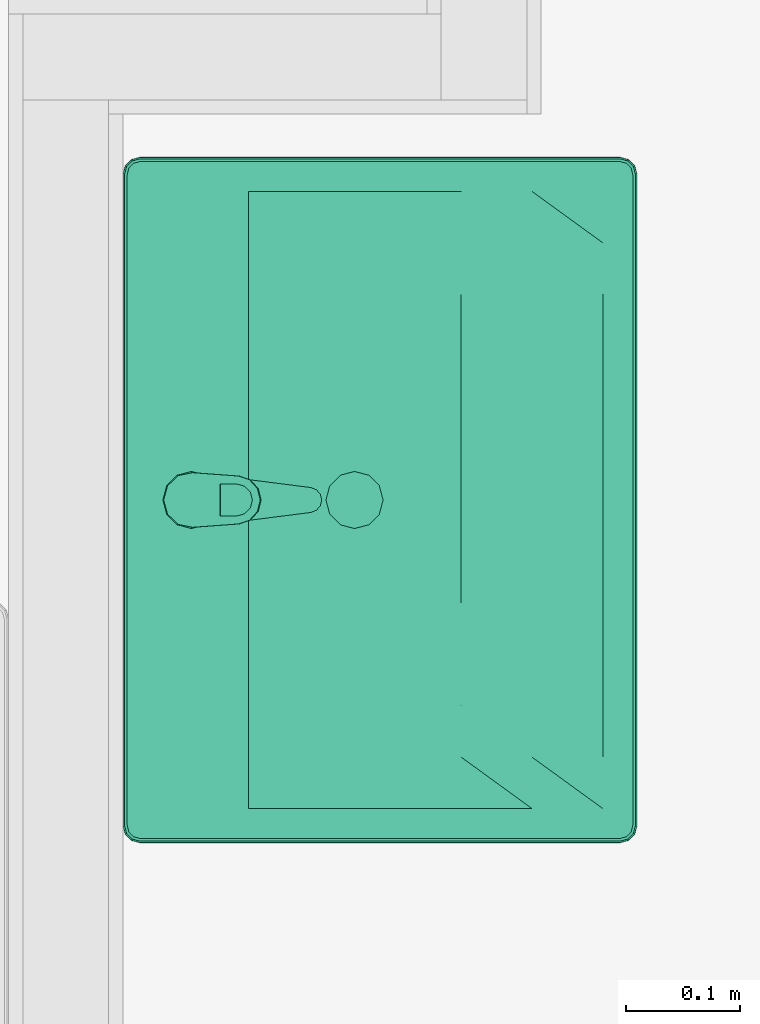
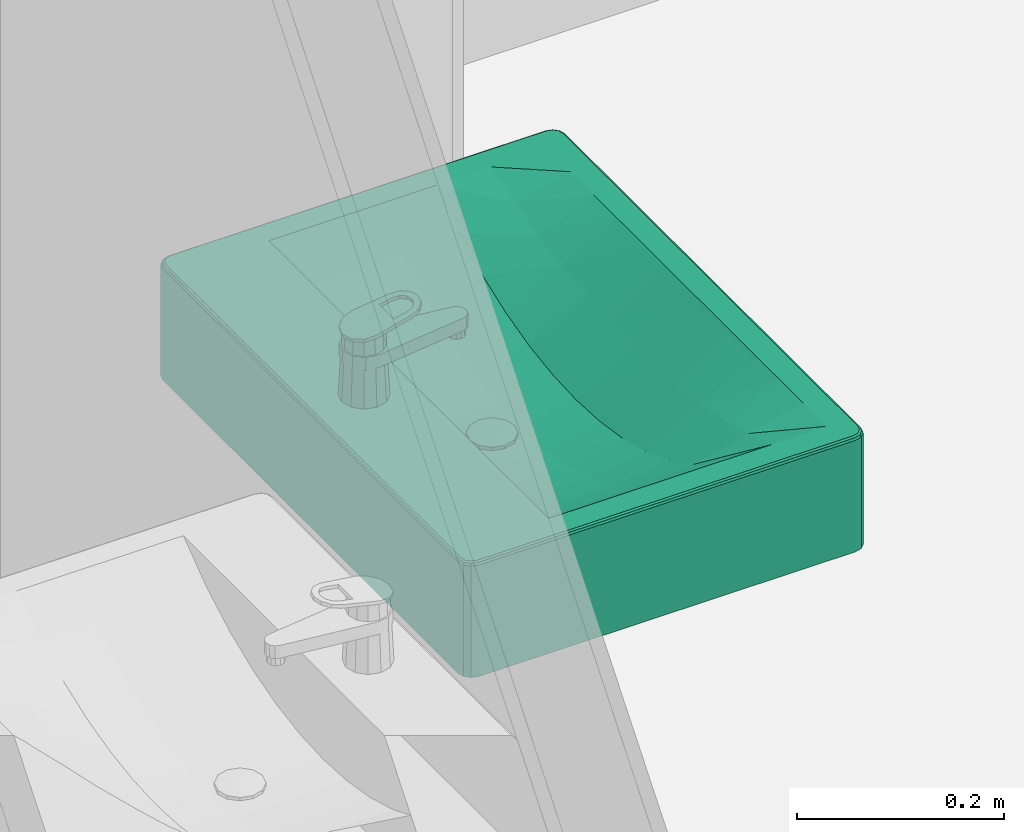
# One storey, part 98 of 117: 1 flow controller.
"""IFC2X3 building model written with IfcOpenShell, lengths in millimetres."""

from ifc_helpers import new_model, entity, si_unit, converted_unit, derived_unit, money_unit, direction, frame, origin_with_axes, place, context, subcontext, project, spatial, open_shell, faceted_brep, surface_model, source, transform, mapped, type_object, type_shapes, element, save


model = new_model("IFC2X3")

# Units and contexts
model_context = context("Model", 3, precision=0.01, world=origin_with_axes(), true_north=direction((0.0, 1.0)))
body_context = subcontext(model_context, "Body", "Model", "MODEL_VIEW")
ifc_project = project(units=[si_unit("LENGTHUNIT", "METRE", prefix="MILLI"), si_unit("AREAUNIT", "SQUARE_METRE"), si_unit("VOLUMEUNIT", "CUBIC_METRE"), converted_unit("PLANEANGLEUNIT", "DEGREE", entity("IfcPlaneAngleMeasure", 0.0174532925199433), si_unit("PLANEANGLEUNIT", "RADIAN"), dimensions=[0, 0, 0, 0, 0, 0, 0]), money_unit("EUR"), converted_unit("TIMEUNIT", "Year", entity("IfcTimeMeasure", 31557600.0), si_unit("TIMEUNIT", "SECOND"), dimensions=[0, 0, 1, 0, 0, 0, 0]), si_unit("MASSUNIT", "GRAM", prefix="KILO"), si_unit("THERMODYNAMICTEMPERATUREUNIT", "DEGREE_CELSIUS"), si_unit("LUMINOUSINTENSITYUNIT", "LUMEN"), si_unit("ENERGYUNIT", "JOULE", prefix="MEGA"), derived_unit("THERMALCONDUCTANCEUNIT", [(si_unit("POWERUNIT", "WATT"), 1), (si_unit("LENGTHUNIT", "METRE"), -1), (si_unit("THERMODYNAMICTEMPERATUREUNIT", "KELVIN"), -1)]), derived_unit("SPECIFICHEATCAPACITYUNIT", [(si_unit("ENERGYUNIT", "JOULE"), 1), (si_unit("MASSUNIT", "GRAM", prefix="KILO"), -1), (si_unit("THERMODYNAMICTEMPERATUREUNIT", "KELVIN"), -1)]), derived_unit("MASSDENSITYUNIT", [(si_unit("MASSUNIT", "GRAM", prefix="KILO"), 1), (si_unit("VOLUMEUNIT", "CUBIC_METRE"), -1)])], contexts=[model_context])

# Site, building, storey
site_placement = place(None, origin_with_axes())
site = spatial("IfcSite", under=ifc_project, at=site_placement, Name="Site", CompositionType="ELEMENT")
building_placement = place(site_placement, origin_with_axes())
building = spatial("IfcBuilding", under=site, at=building_placement, Name="Naam gebouw", CompositionType="ELEMENT")
storey_placement = place(building_placement, frame((0.0, 0.0, 4150.0), z_axis=(0.0, 0.0, 1.0), x_axis=(1.0, 0.0, 0.0)))
storey = spatial("IfcBuildingStorey", under=building, at=storey_placement, Name="1e verdieping N", CompositionType="ELEMENT", Elevation=4150.0)

# Flow controller
valve_type = type_object("IfcValveType", Name="Wasbak 27", PredefinedType="NOTDEFINED")
shared_shape = source(origin_with_axes(), body_context, "Body", "SurfaceModel", [
    faceted_brep([(285.0, -450.0, 865.0), (-285.0, -450.0, 865.0), (-292.5, -447.9903810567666, 865.0), (-297.9903810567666, -442.5, 865.0), (-300.0, -435.0, 865.0), (-300.0, -15.00000000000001, 865.0), (-297.9903810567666, -7.500000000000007, 865.0), (-292.5, -2.009618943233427, 865.0), (-285.0, 0.0, 865.0), (285.0, 0.0, 865.0), (292.5, -2.009618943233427, 865.0), (297.9903810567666, -7.500000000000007, 865.0), (300.0, -15.00000000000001, 865.0), (300.0, -435.0, 865.0), (297.9903810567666, -442.5, 865.0), (292.5, -447.9903810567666, 865.0), (-270.0, -420.0000000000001, 865.0), (270.0, -420.0000000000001, 865.0), (270.0, -110.0, 865.0), (-270.0, -110.0, 865.0), (284.9999995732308, -450.0000003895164, 995.0), (-284.9999997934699, -450.0000003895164, 995.0), (-292.5000000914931, -447.9903813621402, 995.0), (-297.9903813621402, -442.5000000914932, 995.0), (-300.0000003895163, -434.99999979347, 995.0), (-300.0000003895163, -14.99999986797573, 995.0), (-297.9903813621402, -7.499999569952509, 995.0), (-292.5000000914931, -2.009619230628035, 995.0), (-284.9999997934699, -2.032518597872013e-07, 995.0), (284.9999995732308, -2.032518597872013e-07, 995.0), (292.499999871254, -2.009619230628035, 995.0), (297.990381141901, -7.499999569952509, 995.0), (300.0000001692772, -14.99999986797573, 995.0), (300.0000001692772, -434.99999979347, 995.0), (297.990381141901, -442.5000000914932, 995.0), (292.499999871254, -447.9903813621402, 995.0), (-270.0, -420.0000000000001, 999.9999996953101), (270.0, -420.0000000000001, 999.9999996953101), (270.0, -110.0, 999.9999996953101), (-270.0, -110.0, 999.9999996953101), (284.9775698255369, -449.8296295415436, 996.2940952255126), (-284.9775700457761, -449.8296295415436, 996.2940952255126), (-292.4118096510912, -447.8376310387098, 996.2940952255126), (-297.8376310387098, -442.4118096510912, 996.2940952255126), (-299.8296295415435, -434.9775700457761, 996.2940952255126), (-299.8296295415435, -15.02242961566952, 996.2940952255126), (-297.8376310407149, -7.588190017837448, 996.2940952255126), (-292.4118096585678, -2.16236955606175, 996.2940952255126), (-284.9775700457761, -0.1703710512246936, 996.2940952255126), (284.9775698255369, -0.1703710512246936, 996.2940952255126), (292.4118094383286, -2.16236955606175, 996.2940952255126), (297.8376308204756, -7.588190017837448, 996.2940952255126), (299.8296293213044, -15.02242961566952, 996.2940952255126), (299.8296293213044, -434.9775700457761, 996.2940952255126), (297.8376308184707, -442.4118096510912, 996.2940952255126), (292.411809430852, -447.8376310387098, 996.2940952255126), (-284.3417376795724, -4.999997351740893, 999.9999996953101), (-289.911811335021, -6.492494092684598, 999.9999996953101), (-293.5075066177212, -10.08818876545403, 999.9999996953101), (-295.0000032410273, -15.6582619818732, 999.9999996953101), (-295.0000032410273, -434.3417376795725, 999.9999996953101), (-293.5075065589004, -439.9118111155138, 999.9999996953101), (-289.9118111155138, -443.5075065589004, 999.9999996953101), (-284.3417376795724, -445.0000032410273, 999.9999996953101), (284.3417374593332, -445.0000032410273, 999.9999996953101), (289.9118108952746, -443.5075065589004, 999.9999996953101), (293.5075063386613, -439.9118111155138, 999.9999996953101), (295.0000030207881, -434.3417376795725, 999.9999996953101), (295.0000030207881, -15.6582619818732, 999.9999996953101), (293.507506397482, -10.08818876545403, 999.9999996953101), (289.9118111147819, -6.492494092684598, 999.9999996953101), (284.3417374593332, -4.999997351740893, 999.9999996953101), (284.8071989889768, -448.5355345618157, 998.5355339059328), (-284.8071992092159, -448.5355345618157, 998.5355339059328), (-291.7419367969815, -446.6773772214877, 998.5355339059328), (-296.6773772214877, -441.7419367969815, 998.5355339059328), (-298.5355345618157, -434.807199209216, 998.5355339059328), (-298.5355345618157, -15.1928004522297, 998.5355339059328), (-296.6773772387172, -8.258062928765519, 998.5355339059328), (-291.7419368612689, -3.322623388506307, 998.5355339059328), (-284.8071992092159, -1.464466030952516, 998.5355339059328), (284.8071989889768, -1.464466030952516, 998.5355339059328), (291.7419366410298, -3.322623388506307, 998.5355339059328), (296.677377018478, -8.258062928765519, 998.5355339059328), (298.5355343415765, -15.1928004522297, 998.5355339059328), (298.5355343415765, -434.807199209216, 998.5355339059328), (296.6773770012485, -441.7419367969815, 998.5355339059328), (291.7419365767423, -446.6773772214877, 998.5355339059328), (-290.5816830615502, -5.332242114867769, 999.8296291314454), (-284.5121082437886, -3.705904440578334, 999.8296291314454), (-294.6677585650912, -9.418316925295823, 999.8296291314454), (-296.2940961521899, -15.487891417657, 999.8296291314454), (-296.2940961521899, -434.5121082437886, 999.8296291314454), (-294.6677585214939, -440.5816828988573, 999.8296291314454), (-290.5816828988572, -444.6677585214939, 999.8296291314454), (-284.5121082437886, -446.2940961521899, 999.8296291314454), (284.5121080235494, -446.2940961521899, 999.8296291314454), (290.5816826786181, -444.6677585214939, 999.8296291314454), (294.6677583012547, -440.5816828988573, 999.8296291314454), (296.2940959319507, -434.5121082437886, 999.8296291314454), (296.2940959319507, -15.487891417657, 999.8296291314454), (294.667758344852, -9.418316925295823, 999.8296291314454), (290.581682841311, -5.332242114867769, 999.8296291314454), (284.5121080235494, -3.705904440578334, 999.8296291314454)], [[[0, 1, 2, 3, 4, 5, 6, 7, 8, 9, 10, 11, 12, 13, 14, 15], [16, 17, 18, 19]], [[0, 20, 21, 1]], [[1, 21, 22, 2]], [[2, 22, 23, 3]], [[3, 23, 24, 4]], [[4, 24, 25, 5]], [[5, 25, 26, 6]], [[6, 26, 27, 7]], [[7, 27, 28, 8]], [[8, 28, 29, 9]], [[9, 29, 30, 10]], [[10, 30, 31, 11]], [[11, 31, 32, 12]], [[12, 32, 33, 13]], [[13, 33, 34, 14]], [[14, 34, 35, 15]], [[15, 35, 20, 0]], [[36, 37, 17, 16]], [[37, 38, 18, 17]], [[38, 39, 19, 18]], [[39, 36, 16, 19]], [[20, 40, 41, 21]], [[21, 41, 42, 22]], [[22, 42, 43, 23]], [[23, 43, 44, 24]], [[24, 44, 45, 25]], [[25, 45, 46, 26]], [[26, 46, 47, 27]], [[27, 47, 48, 28]], [[28, 48, 49, 29]], [[29, 49, 50, 30]], [[30, 50, 51, 31]], [[31, 51, 52, 32]], [[32, 52, 53, 33]], [[33, 53, 54, 34]], [[34, 54, 55, 35]], [[35, 55, 40, 20]], [[56, 57, 58, 59, 60, 61, 62, 63, 64, 65, 66, 67, 68, 69, 70, 71], [36, 39, 38, 37]], [[40, 72, 73, 41]], [[41, 73, 74, 42]], [[42, 74, 75, 43]], [[43, 75, 76, 44]], [[44, 76, 77, 45]], [[45, 77, 78, 46]], [[46, 78, 79, 47]], [[47, 79, 80, 48]], [[48, 80, 81, 49]], [[49, 81, 82, 50]], [[50, 82, 83, 51]], [[51, 83, 84, 52]], [[52, 84, 85, 53]], [[53, 85, 86, 54]], [[54, 86, 87, 55]], [[55, 87, 72, 40]], [[88, 57, 56, 89]], [[90, 58, 57, 88]], [[91, 59, 58, 90]], [[92, 60, 59, 91]], [[93, 61, 60, 92]], [[94, 62, 61, 93]], [[95, 63, 62, 94]], [[96, 64, 63, 95]], [[97, 65, 64, 96]], [[98, 66, 65, 97]], [[99, 67, 66, 98]], [[100, 68, 67, 99]], [[101, 69, 68, 100]], [[102, 70, 69, 101]], [[103, 71, 70, 102]], [[89, 56, 71, 103]], [[72, 96, 95, 73]], [[73, 95, 94, 74]], [[74, 94, 93, 75]], [[75, 93, 92, 76]], [[76, 92, 91, 77]], [[77, 91, 90, 78]], [[78, 90, 88, 79]], [[79, 88, 89, 80]], [[80, 89, 103, 81]], [[81, 103, 102, 82]], [[82, 102, 101, 83]], [[83, 101, 100, 84]], [[84, 100, 99, 85]], [[85, 99, 98, 86]], [[86, 98, 97, 87]], [[87, 97, 96, 72]]]),
    faceted_brep([(-270.0, -420.0000000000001, 865.0), (-270.0, -110.0, 865.0), (270.0, -110.0, 865.0), (270.0, -420.0000000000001, 865.0), (12.49999999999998, -224.368635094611, 865.0), (21.65063509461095, -215.218, 865.0), (25.0, -202.718, 865.0), (21.65063509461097, -190.218, 865.0), (12.50000000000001, -181.067364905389, 865.0), (0.0, -177.718, 865.0), (-12.49999999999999, -181.067364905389, 865.0), (-21.65063509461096, -190.218, 865.0), (-25.0, -202.718, 865.0), (-21.65063509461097, -215.218, 865.0), (-12.50000000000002, -224.368635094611, 865.0), (0.0, -227.718, 865.0), (-270.0, -296.0000000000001, 1000.0), (-270.0, -234.0, 1000.0), (-270.0, -172.0, 1000.0), (-270.0, -110.0, 1000.0), (-270.0, -420.0000000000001, 1000.0), (-270.0, -358.0000000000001, 1000.0), (135.0, -110.0, 922.6004593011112), (180.0000000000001, -110.0, 941.1231796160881), (225.0, -110.0, 966.3832810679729), (270.0, -110.0, 1000.0), (-225.0, -110.0, 966.3832810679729), (-180.0, -110.0, 941.1231796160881), (-135.0, -110.0, 922.6004593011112), (-90.0, -110.0, 909.8887668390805), (-44.99999999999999, -110.0, 902.449942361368), (0.0, -110.0, 900.0), (45.00000000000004, -110.0, 902.449942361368), (90.00000000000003, -110.0, 909.8887668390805), (270.0, -234.0, 1000.0), (270.0, -296.0000000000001, 999.9999999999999), (270.0, -358.0000000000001, 1000.0), (270.0, -420.0000000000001, 1000.0), (270.0, -172.0, 1000.0), (-135.0, -420.0000000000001, 1000.0), (-180.0, -420.0000000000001, 1000.0), (-225.0, -420.0000000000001, 1000.0), (225.0, -420.0000000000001, 1000.0), (180.0000000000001, -420.0000000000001, 1000.0), (135.0, -420.0000000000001, 1000.0), (90.00000000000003, -420.0000000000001, 1000.0), (45.00000000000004, -420.0000000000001, 1000.0), (0.0, -420.0000000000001, 1000.0), (-44.99999999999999, -420.0000000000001, 1000.0), (-90.0, -420.0000000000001, 1000.0), (12.49999999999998, -224.368635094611, 900.6805395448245), (21.65063509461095, -215.218, 901.1787290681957), (25.0, -202.718, 901.3610790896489), (21.65063509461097, -190.218, 901.1787290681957), (12.50000000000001, -181.067364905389, 900.6805395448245), (0.0, -177.718, 900.0), (-12.49999999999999, -181.067364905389, 900.6805395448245), (-21.65063509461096, -190.218, 901.1787290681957), (-25.0, -202.718, 901.3610790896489), (-21.65063509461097, -215.218, 901.1787290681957), (-12.50000000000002, -224.368635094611, 900.6805395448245), (0.0, -227.718, 900.0), (-225.0, -234.0, 966.3832810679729), (-225.0, -172.0, 966.3832810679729), (-225.0, -358.0000000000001, 985.9168845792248), (-225.0, -296.0000000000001, 970.8433791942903), (180.0000000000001, -172.0, 941.1231796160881), (135.0, -172.0, 922.6004593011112), (225.0, -172.0, 966.3832810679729), (-180.0, -172.0, 941.1231796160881), (-135.0, -172.0, 922.6004593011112), (-90.0, -172.0, 909.8887668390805), (-44.99999999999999, -172.0, 902.449942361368), (0.0, -172.0, 900.0), (45.00000000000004, -172.0, 902.449942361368), (90.00000000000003, -172.0, 909.8887668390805), (225.0, -296.0000000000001, 970.8433791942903), (225.0, -358.0000000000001, 985.9168845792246), (225.0, -234.0, 966.3832810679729), (-135.0, -358.0000000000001, 965.8650987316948), (-180.0, -358.0000000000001, 974.5766150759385), (180.0000000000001, -358.0000000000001, 974.5766150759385), (135.0, -358.0000000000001, 965.8650987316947), (90.00000000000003, -358.0000000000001, 959.6989661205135), (45.00000000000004, -358.0000000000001, 956.0213334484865), (0.0, -358.0000000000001, 954.7990813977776), (-44.99999999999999, -358.0000000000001, 956.0213334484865), (-90.0, -358.0000000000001, 959.6989661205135), (0.0, -234.0, 900.0), (45.00000000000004, -234.0, 902.449942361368), (-44.99999999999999, -234.0, 902.449942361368), (-180.0, -234.0, 941.1231796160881), (180.0000000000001, -234.0, 941.1231796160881), (135.0, -234.0, 922.6004593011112), (-135.0, -234.0, 922.6004593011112), (-90.0, -234.0, 909.8887668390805), (90.00000000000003, -234.0, 909.8887668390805), (0.0, -296.0000000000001, 911.4604006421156), (-44.99999999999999, -296.0000000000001, 913.6864730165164), (-180.0, -296.0000000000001, 948.4946543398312), (135.0, -296.0000000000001, 931.904485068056), (180.0000000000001, -296.0000000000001, 948.4946543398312), (-135.0, -296.0000000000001, 931.904485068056), (-90.0, -296.0000000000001, 920.4312036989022), (45.00000000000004, -296.0000000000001, 913.6864730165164), (90.00000000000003, -296.0000000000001, 920.4312036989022)], [[[0, 1, 2, 3], [4, 5, 6, 7, 8, 9, 10, 11, 12, 13, 14, 15]], [[16, 17, 18, 19, 1, 0, 20, 21]], [[22, 23, 24, 25, 2, 1, 19, 26, 27, 28, 29, 30, 31, 32, 33]], [[34, 35, 36, 37, 3, 2, 25, 38]], [[39, 40, 41, 20, 0, 3, 37, 42, 43, 44, 45, 46, 47, 48, 49]], [[50, 51, 5, 4]], [[51, 52, 6, 5]], [[52, 53, 7, 6]], [[53, 54, 8, 7]], [[54, 55, 9, 8]], [[55, 56, 10, 9]], [[56, 57, 11, 10]], [[57, 58, 12, 11]], [[58, 59, 13, 12]], [[59, 60, 14, 13]], [[60, 61, 15, 14]], [[61, 50, 4, 15]], [[16, 62, 17]], [[62, 63, 18, 17]], [[63, 26, 19, 18]], [[20, 64, 21]], [[21, 65, 16]], [[66, 23, 22, 67]], [[68, 24, 23, 66]], [[38, 25, 24, 68]], [[69, 27, 26, 63]], [[70, 28, 27, 69]], [[71, 29, 28, 70]], [[72, 30, 29, 71]], [[73, 31, 30, 72]], [[74, 32, 31, 73]], [[75, 33, 32, 74]], [[67, 22, 33, 75]], [[76, 35, 34]], [[77, 36, 35]], [[42, 37, 36]], [[34, 38, 68, 78]], [[40, 39, 79]], [[41, 40, 80]], [[20, 41, 64]], [[43, 42, 77]], [[44, 43, 81]], [[45, 44, 82]], [[46, 45, 83]], [[47, 46, 84]], [[48, 47, 85]], [[49, 48, 86]], [[39, 49, 87]], [[54, 53, 52, 51, 50, 61, 88, 89, 74, 73, 55]], [[56, 55, 73, 72, 90, 88, 61, 60, 59, 58, 57]], [[16, 65, 62]], [[91, 69, 63, 62]], [[21, 64, 65]], [[92, 66, 67, 93]], [[78, 68, 66, 92]], [[94, 70, 69, 91]], [[95, 71, 70, 94]], [[90, 72, 71, 95]], [[96, 75, 74, 89]], [[93, 67, 75, 96]], [[77, 35, 76]], [[76, 34, 78]], [[42, 36, 77]], [[39, 87, 79]], [[40, 79, 80]], [[41, 80, 64]], [[43, 77, 81]], [[44, 81, 82]], [[45, 82, 83]], [[46, 83, 84]], [[47, 84, 85]], [[48, 85, 86]], [[49, 86, 87]], [[97, 89, 88]], [[98, 88, 90]], [[65, 91, 62]], [[64, 99, 65]], [[100, 92, 93]], [[101, 78, 92]], [[99, 94, 91]], [[102, 95, 94]], [[103, 90, 95]], [[104, 96, 89]], [[105, 93, 96]], [[81, 77, 76]], [[101, 76, 78]], [[79, 87, 103]], [[80, 79, 102]], [[64, 80, 99]], [[82, 81, 101]], [[83, 82, 100]], [[84, 83, 105]], [[85, 84, 104]], [[86, 85, 97]], [[87, 86, 98]], [[97, 104, 89]], [[98, 97, 88]], [[103, 98, 90]], [[65, 99, 91]], [[100, 101, 92]], [[105, 100, 93]], [[99, 102, 94]], [[102, 103, 95]], [[104, 105, 96]], [[81, 76, 101]], [[87, 98, 103]], [[79, 103, 102]], [[80, 102, 99]], [[82, 101, 100]], [[83, 100, 105]], [[84, 105, 104]], [[85, 104, 97]], [[86, 97, 98]]]),
    faceted_brep([(21.65063509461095, -215.218, 900.0), (12.49999999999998, -224.368635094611, 900.0), (0.0, -227.718, 900.0), (-12.50000000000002, -224.368635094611, 900.0), (-21.65063509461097, -215.218, 900.0), (-25.0, -202.718, 900.0), (-21.65063509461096, -190.218, 900.0), (-12.49999999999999, -181.067364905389, 900.0), (0.0, -177.718, 900.0), (12.50000000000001, -181.067364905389, 900.0), (21.65063509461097, -190.218, 900.0), (25.0, -202.718, 900.0), (21.65063509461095, -215.218, 905.0), (12.49999999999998, -224.368635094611, 905.0), (0.0, -227.718, 905.0), (-12.50000000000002, -224.368635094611, 905.0), (-21.65063509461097, -215.218, 905.0), (-25.0, -202.718, 905.0), (-21.65063509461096, -190.218, 905.0), (-12.49999999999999, -181.067364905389, 905.0), (0.0, -177.718, 905.0), (12.50000000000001, -181.067364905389, 905.0), (21.65063509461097, -190.218, 905.0), (25.0, -202.718, 905.0)], [[[0, 1, 2, 3, 4, 5, 6, 7, 8, 9, 10, 11]], [[1, 0, 12, 13]], [[2, 1, 13, 14]], [[3, 2, 14, 15]], [[4, 3, 15, 16]], [[5, 4, 16, 17]], [[6, 5, 17, 18]], [[7, 6, 18, 19]], [[8, 7, 19, 20]], [[9, 8, 20, 21]], [[10, 9, 21, 22]], [[11, 10, 22, 23]], [[0, 11, 23, 12]], [[12, 23, 22, 21, 20, 19, 18, 17, 16, 15, 14, 13]]]),
    surface_model("IfcShellBasedSurfaceModel", [(0.0, -202.718, 907.0), (0.0, -190.09609443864, 906.4975737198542), (-6.310952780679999, -191.7871091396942, 906.4975737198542), (6.310952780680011, -191.7871091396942, 906.4975737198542), (0.0, -177.718, 905.0), (-12.5, -181.067364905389, 905.0), (-10.93089086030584, -196.40704721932, 906.4975737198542), (10.93089086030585, -196.40704721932, 906.4975737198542), (12.50000000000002, -181.067364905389, 905.0), (-21.65063509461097, -190.218, 905.0), (-12.62190556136, -202.718, 906.4975737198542), (12.62190556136, -202.718, 906.4975737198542), (21.65063509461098, -190.218, 905.0), (-25.0, -202.718, 905.0), (-10.93089086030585, -209.02895278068, 906.4975737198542), (10.93089086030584, -209.02895278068, 906.4975737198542), (25.0, -202.718, 905.0), (-21.65063509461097, -215.218, 905.0), (-6.310952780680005, -213.6488908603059, 906.4975737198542), (6.310952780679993, -213.6488908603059, 906.4975737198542), (21.65063509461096, -215.218, 905.0), (-12.50000000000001, -224.368635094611, 905.0), (0.0, -215.33990556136, 906.4975737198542), (12.49999999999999, -224.368635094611, 905.0), (0.0, -227.718, 905.0)], [open_shell([[[0, 1, 2]], [[0, 3, 1]], [[2, 1, 4, 5]], [[0, 2, 6]], [[0, 7, 3]], [[1, 3, 8, 4]], [[6, 2, 5, 9]], [[0, 6, 10]], [[0, 11, 7]], [[3, 7, 12, 8]], [[10, 6, 9, 13]], [[0, 10, 14]], [[0, 15, 11]], [[7, 11, 16, 12]], [[14, 10, 13, 17]], [[0, 14, 18]], [[0, 19, 15]], [[11, 15, 20, 16]], [[18, 14, 17, 21]], [[0, 18, 22]], [[0, 22, 19]], [[15, 19, 23, 20]], [[22, 18, 21, 24]], [[19, 22, 24, 23]]])]),
    faceted_brep([(12.50000000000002, -38.34936490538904, 1000.0), (0.0, -34.99999999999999, 1000.0), (0.0, -38.79807692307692, 1075.961538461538), (10.587322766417, -41.66221905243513, 1076.507089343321), (21.65063509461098, -47.50000000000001, 1000.0), (25.0, -60.00000000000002, 1000.0), (21.65063509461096, -72.50000000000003, 1000.0), (12.49999999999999, -81.65063509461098, 1000.0), (0.0, -84.99999999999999, 1000.0), (-12.50000000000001, -81.65063509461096, 1000.0), (-21.65063509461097, -72.5, 1000.0), (-25.0, -59.99999999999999, 1000.0), (-21.65063509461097, -47.49999999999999, 1000.0), (-12.5, -38.34936490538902, 1000.0), (-10.58732276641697, -41.66221905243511, 1076.507089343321), (-18.27355038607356, -49.44976076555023, 1077.99043062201), (-21.0, -59.99999999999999, 1080.0), (-18.10034137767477, -70.45023696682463, 1081.990521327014), (-10.41410590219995, -78.0377605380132, 1083.435763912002), (0.0, -80.80188679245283, 1083.962264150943), (10.41410590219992, -78.03776053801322, 1083.435763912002), (18.10034137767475, -70.45023696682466, 1081.990521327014), (21.0, -60.00000000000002, 1080.0), (18.27355038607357, -49.44976076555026, 1077.99043062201)], [[[0, 1, 2, 3]], [[0, 4, 5, 6, 7, 8, 9, 10, 11, 12, 13, 1]], [[1, 13, 14, 2]], [[3, 2, 14, 15, 16, 17, 18, 19, 20, 21, 22, 23]], [[4, 0, 3, 23]], [[5, 4, 23, 22]], [[6, 5, 22, 21]], [[7, 6, 21, 20]], [[8, 7, 20, 19]], [[9, 8, 19, 18]], [[10, 9, 18, 17]], [[11, 10, 17, 16]], [[12, 11, 16, 15]], [[13, 12, 15, 14]]]),
    faceted_brep([(9.000000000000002, -163.0, 1035.0), (7.794228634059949, -158.5, 1035.0), (7.794228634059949, -158.5, 1045.0), (9.000000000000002, -163.0, 1045.0), (7.794228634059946, -167.5, 1035.0), (4.499999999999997, -170.79422863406, 1035.0), (0.0, -172.0, 1035.0), (-4.500000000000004, -170.79422863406, 1035.0), (-7.794228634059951, -167.5, 1035.0), (-9.000000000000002, -163.0, 1035.0), (-7.794228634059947, -158.5, 1035.0), (-4.499999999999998, -155.2057713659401, 1035.0), (0.0, -154.0, 1035.0), (4.500000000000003, -155.2057713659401, 1035.0), (4.500000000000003, -155.2057713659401, 1045.0), (0.0, -154.0, 1045.0), (-4.499999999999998, -155.2057713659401, 1045.0), (-7.794228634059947, -158.5, 1045.0), (-9.000000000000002, -163.0, 1045.0), (-7.794228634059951, -167.5, 1045.0), (-4.500000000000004, -170.79422863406, 1045.0), (0.0, -172.0, 1045.0), (4.499999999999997, -170.79422863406, 1045.0), (7.794228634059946, -167.5, 1045.0)], [[[0, 1, 2, 3]], [[0, 4, 5, 6, 7, 8, 9, 10, 11, 12, 13, 1]], [[1, 13, 14, 2]], [[3, 2, 14, 15, 16, 17, 18, 19, 20, 21, 22, 23]], [[4, 0, 3, 23]], [[5, 4, 23, 22]], [[6, 5, 22, 21]], [[7, 6, 21, 20]], [[8, 7, 20, 19]], [[9, 8, 19, 18]], [[10, 9, 18, 17]], [[11, 10, 17, 16]], [[12, 11, 16, 15]], [[13, 12, 15, 14]]]),
    faceted_brep([(-12.87171762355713, -39.74369617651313, 1060.0), (-21.72780530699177, -49.80679463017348, 1060.0), (-23.8054, -63.04989999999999, 1060.0), (-10.9119908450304, -164.3883719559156, 1060.0), (-9.02887546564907, -169.2831941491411, 1060.0), (-5.093324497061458, -172.7497264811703, 1060.0), (3.626798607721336e-05, -173.9999600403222, 1060.0), (5.093388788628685, -172.7496928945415, 1060.0), (9.02891689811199, -169.2831346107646, 1060.0), (10.912, -164.3883, 1060.0), (23.80539974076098, -63.04990202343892, 1060.0), (21.72780617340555, -49.80679647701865, 1060.0), (12.87171934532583, -39.74369727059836, 1060.0), (1.019988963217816e-06, -36.00002168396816, 1060.0), (11.00000000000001, -40.94744111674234, 1060.0), (19.05255888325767, -48.99999999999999, 1060.0), (22.00000000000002, -60.0, 1060.0), (19.05255888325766, -71.00000000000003, 1060.0), (10.99999999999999, -79.05255888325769, 1060.0), (0.0, -82.0, 1060.0), (-11.00000000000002, -79.05255888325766, 1060.0), (-19.05255888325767, -70.99999999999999, 1060.0), (-22.00000000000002, -59.99999999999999, 1060.0), (-19.05255888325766, -48.99999999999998, 1060.0), (-11.0, -40.94744111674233, 1060.0), (0.0, -37.99999999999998, 1060.0), (-21.72780530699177, -49.80679463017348, 1045.0), (-12.87171762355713, -39.74369617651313, 1045.0), (-23.8054, -63.04989999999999, 1045.0), (-10.9119908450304, -164.3883719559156, 1045.0), (-9.02887546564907, -169.2831941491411, 1045.0), (-5.093324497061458, -172.7497264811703, 1045.0), (3.626798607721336e-05, -173.9999600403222, 1045.0), (5.093388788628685, -172.7496928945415, 1045.0), (9.02891689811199, -169.2831346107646, 1045.0), (10.912, -164.3883, 1045.0), (23.80539974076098, -63.04990202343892, 1045.0), (21.72780617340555, -49.80679647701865, 1045.0), (12.87171934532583, -39.74369727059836, 1045.0), (1.019988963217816e-06, -36.00002168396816, 1045.0), (11.37500000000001, -40.297922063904, 1045.0), (19.70207793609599, -48.62499999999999, 1045.0), (22.75000000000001, -60.0, 1045.0), (19.70207793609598, -71.37500000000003, 1045.0), (11.37499999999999, -79.702077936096, 1045.0), (0.0, -82.75, 1045.0), (-11.37500000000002, -79.70207793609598, 1045.0), (-19.70207793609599, -71.375, 1045.0), (-22.75000000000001, -59.99999999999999, 1045.0), (-19.70207793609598, -48.62499999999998, 1045.0), (-11.375, -40.297922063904, 1045.0), (0.0, -37.24999999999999, 1045.0)], [[[0, 1, 2, 3, 4, 5, 6, 7, 8, 9, 10, 11, 12, 13], [14, 15, 16, 17, 18, 19, 20, 21, 22, 23, 24, 25]], [[26, 1, 0, 27]], [[28, 2, 1, 26]], [[29, 3, 2, 28]], [[30, 4, 3, 29]], [[31, 5, 4, 30]], [[32, 6, 5, 31]], [[33, 7, 6, 32]], [[34, 8, 7, 33]], [[35, 9, 8, 34]], [[36, 10, 9, 35]], [[37, 11, 10, 36]], [[38, 12, 11, 37]], [[39, 13, 12, 38]], [[27, 0, 13, 39]], [[40, 41, 15, 14]], [[41, 42, 16, 15]], [[42, 43, 17, 16]], [[43, 44, 18, 17]], [[44, 45, 19, 18]], [[20, 19, 45, 46]], [[21, 20, 46, 47]], [[22, 21, 47, 48]], [[23, 22, 48, 49]], [[24, 23, 49, 50]], [[50, 51, 25, 24]], [[51, 40, 14, 25]], [[32, 31, 30, 29, 28, 26, 27, 39, 38, 37, 36, 35, 34, 33], [44, 43, 42, 41, 40, 51, 50, 49, 48, 47, 46, 45]]]),
    faceted_brep([(23.893, -61.69256934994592, 1080.322394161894), (21.29642141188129, -49.22528119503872, 1077.947672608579), (21.29642141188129, -48.47683276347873, 1081.877026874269), (23.893, -60.94412091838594, 1084.251748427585), (20.94593649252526, -101.8367022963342, 1087.968895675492), (17.66313911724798, -111.514366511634, 1089.81226028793), (10.06143529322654, -118.4637460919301, 1091.135951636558), (-0.0004426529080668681, -120.9856119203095, 1091.61630703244), (-10.06221236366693, -118.4633294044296, 1091.13587226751), (-17.66361794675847, -111.5136350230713, 1089.812120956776), (-20.946, -101.8358348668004, 1087.968730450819), (-23.89302047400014, -61.69229042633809, 1080.322341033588), (-21.29629106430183, -49.22503258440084, 1077.947625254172), (-12.4716815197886, -39.90880255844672, 1076.173105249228), (0.0001423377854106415, -36.46803549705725, 1075.517721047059), (12.47192457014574, -39.90894815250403, 1076.173132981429), (14.0, -85.54080272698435, 1084.86491480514), (-14.0, -85.54080272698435, 1084.86491480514), (-14.0, -100.3564329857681, 1087.686939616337), (-12.12435565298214, -107.2328029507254, 1088.996724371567), (-7.000000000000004, -112.2666551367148, 1089.955553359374), (0.0, -114.1091729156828, 1090.306509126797), (6.999999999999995, -112.2666551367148, 1089.955553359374), (12.12435565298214, -107.2328029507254, 1088.996724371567), (14.0, -100.3564329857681, 1087.686939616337), (12.47192457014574, -39.16049972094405, 1080.102487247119), (0.0001423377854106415, -35.71958706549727, 1079.447075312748), (-12.4716815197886, -39.16035412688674, 1080.102459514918), (-21.29629106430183, -48.47658415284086, 1081.876979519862), (-23.89302047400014, -60.9438419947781, 1084.251695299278), (-20.946, -101.0873864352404, 1091.898084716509), (-17.66361794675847, -110.7651865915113, 1093.741475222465), (-10.06221236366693, -117.7148809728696, 1095.0652265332), (-0.0004426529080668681, -120.2371634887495, 1095.54566129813), (10.06143529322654, -117.7152976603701, 1095.065305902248), (17.66313911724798, -110.765918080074, 1093.74161455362), (20.94593649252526, -101.0882538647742, 1091.898249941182), (14.0, -84.79235429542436, 1088.79426907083), (14.0, -99.60798455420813, 1091.616293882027), (12.12435565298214, -106.4843545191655, 1092.926078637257), (6.999999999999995, -111.5182067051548, 1093.884907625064), (0.0, -113.3607244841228, 1094.235863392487), (-7.000000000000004, -111.5182067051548, 1093.884907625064), (-12.12435565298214, -106.4843545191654, 1092.926078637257), (-14.0, -99.60798455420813, 1091.616293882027), (-14.0, -84.79235429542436, 1088.79426907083)], [[[0, 1, 2, 3]], [[0, 4, 5, 6, 7, 8, 9, 10, 11, 12, 13, 14, 15, 1], [16, 17, 18, 19, 20, 21, 22, 23, 24]], [[1, 15, 25, 2]], [[3, 2, 25, 26, 27, 28, 29, 30, 31, 32, 33, 34, 35, 36], [37, 38, 39, 40, 41, 42, 43, 44, 45]], [[4, 0, 3, 36]], [[5, 4, 36, 35]], [[6, 5, 35, 34]], [[7, 6, 34, 33]], [[8, 7, 33, 32]], [[9, 8, 32, 31]], [[10, 9, 31, 30]], [[11, 10, 30, 29]], [[12, 11, 29, 28]], [[13, 12, 28, 27]], [[14, 13, 27, 26]], [[15, 14, 26, 25]], [[17, 16, 37, 45]], [[18, 17, 45, 44]], [[19, 18, 44, 43]], [[20, 19, 43, 42]], [[21, 20, 42, 41]], [[22, 21, 41, 40]], [[23, 22, 40, 39]], [[24, 23, 39, 38]], [[16, 24, 38, 37]]]),
])
type_shapes(valve_type, [shared_shape])
flow_controller_placement = place(storey_placement, frame((33483.11817762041, 16553.28682193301, -150.0000000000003), z_axis=(0.0, 0.0, 1.0), x_axis=(0.0, 1.0, 0.0)))
element("IfcFlowController", 1, at=flow_controller_placement, inside=storey, type_object=valve_type, Name="_Sanitair-x", ObjectType="Electric Distribution Board", context=body_context, shape_type="MappedRepresentation", body=[
    mapped(shared_shape, transform((0.0, 0.0, 0.0))),
])

save(model, "model.ifc")
